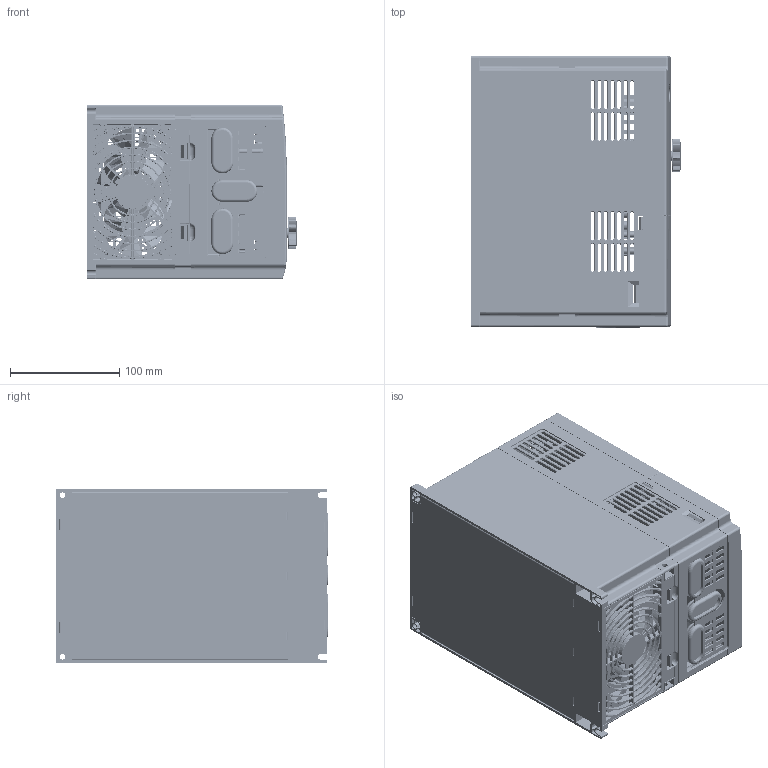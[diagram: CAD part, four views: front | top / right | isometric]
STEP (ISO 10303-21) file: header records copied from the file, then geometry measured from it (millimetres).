
FILE_DESCRIPTION((''),'2;1');
FILE_NAME('7P5T4_ASM','2022-12-09T',('500081'),(''),'CREO PARAMETRIC BY PTC INC, 2014350','CREO PARAMETRIC BY PTC INC, 2014350','');
FILE_SCHEMA(('CONFIG_CONTROL_DESIGN'));
Products named in the file (40): 7P5T4_A; L-M4X8-LOU-XEN; L-M3X4-LOU-XEN; SCED_TB1100-16; 7P5T4_A_1_ASM; 7P5T4_SANREQI; L-FS-60X60X25; L-FS-80X80X25; 7P5T4_E; 7P5T4_F; 7P5T4_A_ASM; 7P5T4_B; 7P5T4_B_1_ASM; 7P5T4_G; TAO_42X20X9; 7P5T4_G_ASM; 7P5T4_B_ASM; 7P5T4_C; JP_JIANPANKE; JP_BOLIBAN; JP_MIANMO; JP_MIANMO_ASM; JP_Z_ASM; JP_PCB; 2P-SHUMAGUAN; 3P-SHUMAGUAN; 5PP_ASM; JP_BIANMAQI; JP_QINGCHUKAIGUAN; JP_GONGTOU; JP_LED; JP_PCB_ASM; JP_XUANNIU; JP_JIANPANGAI; JP_JIANPANGAI_ASM; JP_Z1_ASM; 7P5T4_C_ASM; 7P5T4_D; 7P5T4_H; 7P5T4_ASM
Assembly tree (60 placements, depth 6):
  7P5T4_ASM
    7P5T4_A_ASM
      7P5T4_A_1_ASM
        7P5T4_A
        L-M4X8-LOU-XEN  x2
        L-M3X4-LOU-XEN  x2
        SCED_TB1100-16
      7P5T4_SANREQI
      L-FS-60X60X25  x2
      L-FS-80X80X25
      7P5T4_E
      7P5T4_F
    7P5T4_B_ASM
      7P5T4_B_1_ASM
        7P5T4_B
        L-M3X4-LOU-XEN  x2
      7P5T4_G_ASM
        7P5T4_G
        TAO_42X20X9  x3
    7P5T4_C_ASM
      7P5T4_C
      JP_Z1_ASM
        JP_Z_ASM
          JP_JIANPANKE
          JP_BOLIBAN
          JP_MIANMO_ASM
            JP_MIANMO
        JP_PCB_ASM
          JP_PCB
          5PP_ASM
            2P-SHUMAGUAN
            3P-SHUMAGUAN
          JP_BIANMAQI
          JP_QINGCHUKAIGUAN  x9
          JP_GONGTOU
          JP_LED  x7
        JP_XUANNIU
        JP_JIANPANGAI_ASM
          JP_JIANPANGAI
    7P5T4_D
    7P5T4_H
Bounding box: 192.5 x 248.9 x 160 mm (x, y, z)
Volume: 1262044.1 mm3; surface area: 1334254.2 mm2
Topology: 50 solids, 50 shells, 10309 faces, 27223 edges, 17290 vertices
Faces by surface type: plane 5838, cylinder 2923, torus 587, cone 464, extrusion 247, bspline 147, sphere 101, revolution 2
Entity records: 374493 total; most frequent: CARTESIAN_POINT 63359, ORIENTED_EDGE 47916, DIRECTION 47762, PRESENTATION_STYLE_ASSIGNMENT 24770, STYLED_ITEM 24029, CURVE_STYLE 23958, EDGE_CURVE 23958, VECTOR 16072
